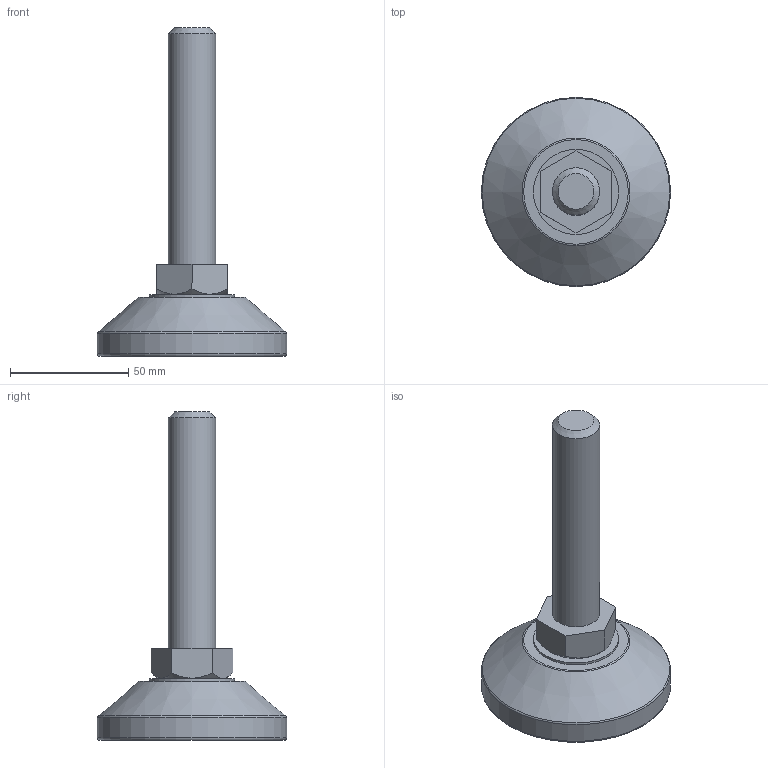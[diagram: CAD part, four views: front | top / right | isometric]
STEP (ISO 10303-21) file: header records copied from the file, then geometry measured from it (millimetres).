
FILE_DESCRIPTION(/* description */ (''),/* implementation_level */ '2;1');
FILE_NAME(/* name */ 'D:\조절자\F\F-M20-100L.stp',/* time_stamp */ '2016-03-14T14:30:35+09:00',/* author */ ('GS-DT-1-001'),/* organization */ (''),/* preprocessor_version */ 'ST-DEVELOPER v15.6',/* originating_system */ 'Autodesk Inventor LT ',/* authorisation */ '');
FILE_SCHEMA (('AUTOMOTIVE_DESIGN { 1 0 10303 214 3 1 1 }'));
Length unit declared in the file: millimetre
Products named in the file (1): F-M20-100L
Bounding box: 80 x 80 x 139 mm (x, y, z)
Volume: 109158.2 mm3; surface area: 28853.4 mm2
Topology: 4 solids, 4 shells, 46 faces, 84 edges, 52 vertices
Faces by surface type: plane 20, cylinder 13, cone 9, torus 4
Full cylindrical faces by diameter (mm): 6.912 x1, 8 x1, 8.2 x1, 8.3 x1, 16 x1, 20 x1, 36 x1, 50 x1, 57 x1, 61 x1, 71 x1, 75 x1, 80 x1
Entity records: 995 total; most frequent: DIRECTION 180, CARTESIAN_POINT 163, ORIENTED_EDGE 110, AXIS2_PLACEMENT_3D 84, EDGE_LOOP 82, EDGE_CURVE 55, VERTEX_POINT 49, FACE_OUTER_BOUND 46
